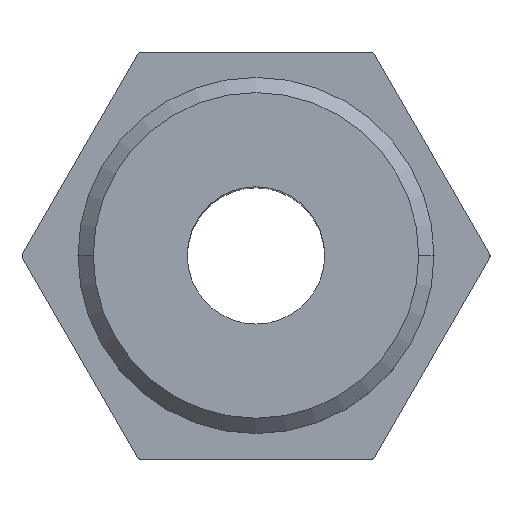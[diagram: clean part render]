
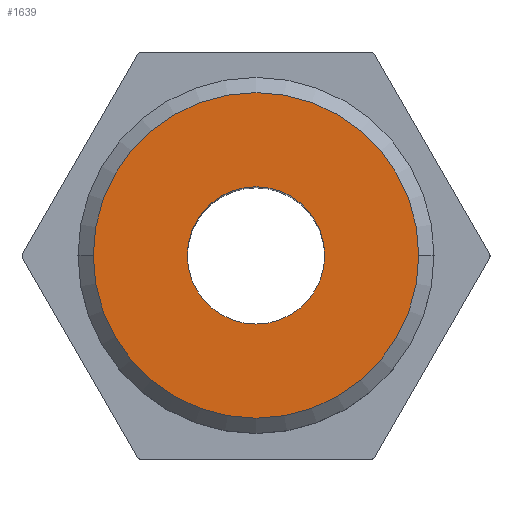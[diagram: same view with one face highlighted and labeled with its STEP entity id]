
A CAD part, top view. The second image highlights one B-rep face of the part: STEP entity #1639.
In plain terms, the highlighted planar face has unit normal (0, 0, 1).
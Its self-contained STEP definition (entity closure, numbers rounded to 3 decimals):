
#9 = ORIENTED_EDGE ( 'NONE', *, *, #1709, .T. ) ;
#61 = FACE_BOUND ( 'NONE', #1525, .T. ) ;
#72 = CARTESIAN_POINT ( 'NONE',  ( 0., 0., 13. ) ) ;
#95 = DIRECTION ( 'NONE',  ( 1., 0., 0. ) ) ;
#98 = CARTESIAN_POINT ( 'NONE',  ( 1.35, 0., 13. ) ) ;
#155 = CIRCLE ( 'NONE', #1105, 1.35 ) ;
#369 = DIRECTION ( 'NONE',  ( 0., 0., 1. ) ) ;
#381 = DIRECTION ( 'NONE',  ( 1., 0., 0. ) ) ;
#432 = DIRECTION ( 'NONE',  ( 0., 0., -1. ) ) ;
#885 = FACE_OUTER_BOUND ( 'NONE', #1656, .T. ) ;
#887 = AXIS2_PLACEMENT_3D ( 'NONE', #72, #2079, #1421 ) ;
#920 = DIRECTION ( 'NONE',  ( 1., 0., 0. ) ) ;
#983 = ORIENTED_EDGE ( 'NONE', *, *, #1270, .T. ) ;
#1007 = ORIENTED_EDGE ( 'NONE', *, *, #1291, .T. ) ;
#1011 = EDGE_CURVE ( 'NONE', #1636, #1107, #1370, .T. ) ;
#1059 = CIRCLE ( 'NONE', #887, 3.2 ) ;
#1079 = CARTESIAN_POINT ( 'NONE',  ( 0., 0., 13. ) ) ;
#1093 = CARTESIAN_POINT ( 'NONE',  ( 0., 0., 13. ) ) ;
#1104 = CARTESIAN_POINT ( 'NONE',  ( 0., 0., 13. ) ) ;
#1105 = AXIS2_PLACEMENT_3D ( 'NONE', #1104, #432, #2093 ) ;
#1107 = VERTEX_POINT ( 'NONE', #1556 ) ;
#1167 = PLANE ( 'NONE',  #1775 ) ;
#1246 = DIRECTION ( 'NONE',  ( 0., 0., 1. ) ) ;
#1270 = EDGE_CURVE ( 'NONE', #1308, #1374, #155, .T. ) ;
#1291 = EDGE_CURVE ( 'NONE', #1374, #1308, #1373, .T. ) ;
#1308 = VERTEX_POINT ( 'NONE', #98 ) ;
#1350 = CARTESIAN_POINT ( 'NONE',  ( 0., 0., 13. ) ) ;
#1370 = CIRCLE ( 'NONE', #1967, 3.2 ) ;
#1373 = CIRCLE ( 'NONE', #1418, 1.35 ) ;
#1374 = VERTEX_POINT ( 'NONE', #1454 ) ;
#1418 = AXIS2_PLACEMENT_3D ( 'NONE', #1093, #1432, #920 ) ;
#1421 = DIRECTION ( 'NONE',  ( 1., 0., 0. ) ) ;
#1432 = DIRECTION ( 'NONE',  ( 0., 0., -1. ) ) ;
#1450 = ORIENTED_EDGE ( 'NONE', *, *, #1011, .T. ) ;
#1454 = CARTESIAN_POINT ( 'NONE',  ( -1.35, 0., 13. ) ) ;
#1525 = EDGE_LOOP ( 'NONE', ( #1007, #983 ) ) ;
#1556 = CARTESIAN_POINT ( 'NONE',  ( -3.2, 0., 13. ) ) ;
#1636 = VERTEX_POINT ( 'NONE', #1711 ) ;
#1639 = ADVANCED_FACE ( 'NONE', ( #885, #61 ), #1167, .T. ) ;
#1656 = EDGE_LOOP ( 'NONE', ( #9, #1450 ) ) ;
#1709 = EDGE_CURVE ( 'NONE', #1107, #1636, #1059, .T. ) ;
#1711 = CARTESIAN_POINT ( 'NONE',  ( 3.2, 0., 13. ) ) ;
#1775 = AXIS2_PLACEMENT_3D ( 'NONE', #1079, #1246, #95 ) ;
#1967 = AXIS2_PLACEMENT_3D ( 'NONE', #1350, #369, #381 ) ;
#2079 = DIRECTION ( 'NONE',  ( 0., 0., 1. ) ) ;
#2093 = DIRECTION ( 'NONE',  ( 1., 0., 0. ) ) ;
